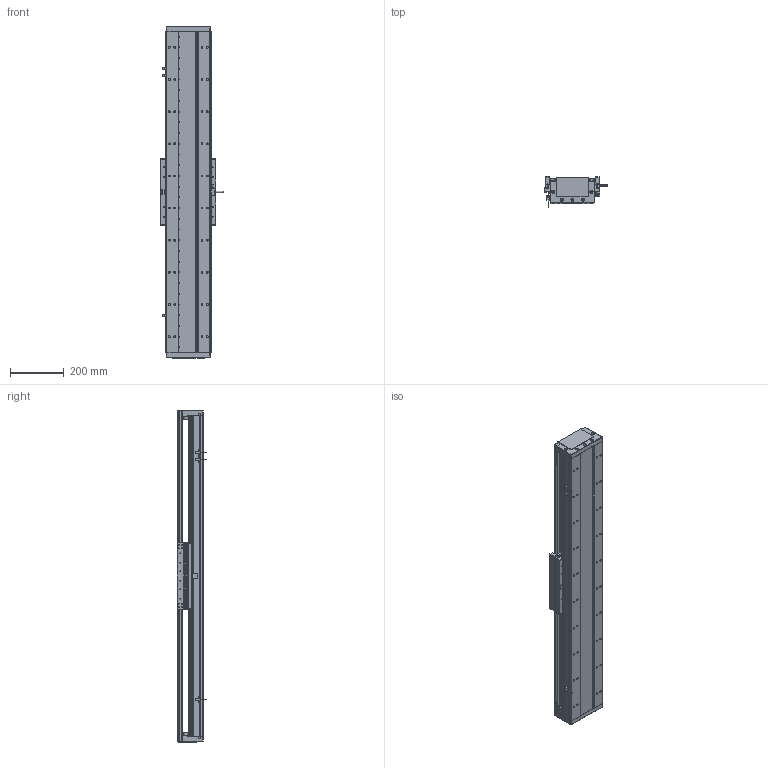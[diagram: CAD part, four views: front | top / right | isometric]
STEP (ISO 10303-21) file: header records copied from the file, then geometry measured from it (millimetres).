
FILE_DESCRIPTION (( 'STEP AP203' ), '1' );
FILE_NAME ('DA-C165-C3-T900-C010-0.2 直线电机.STEP', '2023-06-13T08:42:07', ( '微软用户' ), ( '微软中国' ), 'SwSTEP 2.0', 'SolidWorks 2019', '' );
FILE_SCHEMA (( 'CONFIG_CONTROL_DESIGN' ));
Length unit declared in the file: millimetre
Products named in the file (15): 复件 DA165-GYP-00 光电感应片^DA-C165-C3-T-C010-0.2-N 直线电机; 葩璃 CKM01-W075-TRL^DA-C165-C3-T-C010-0.2-N 眻盄萇儂; 葩璃 DA95-GT-T-00^IU-CU165-L 菁釱絳寢_T; 复件 DA165-T-002-00 盖板^DA-C165-C3-T-C010-0.2-N 直线电机_0840-002-00; 复件 XD-U-02L 磁栅尺^DA-C165-C3-T-C010-0.2-N 直线电机_T; IU-CU165-L 菁釱絳寢; 珨极趙賑雄怢啣C3-wf; 葩璃 PM-T45^DA-C165-C3-T-C010-0.2-N 眻盄萇儂; 复件 六角薄螺母 M3^DA-C165-C3-T-C010-0.2-N 直线电机_GB_FASTENER_NUT_STNAB M3-C; 复件 DA165-DG-H-N-00 端盖^DA-C165-C3-T-C010-0.2-N 直线电机; 复件 DMA-010-0.2 读数头^DA-C165-C3-T-C010-0.2-N 直线电机; 复件 DA95-HXJ-00 缓冲橡胶^DA-C165-C3-T-C010-0.2-N 直线电机; 复件 CU165 底座^IU-CU165-L 底座导轨_L1200; DA-C165-C3-T900-C010-0.2 眻盄萇儂; 葩璃 CKM03-W075-C1C2-TP-3.0^DA-C165-C3-T-C010-0.2-N 眻盄萇儂
Assembly tree (30 placements, depth 3):
  DA-C165-C3-T900-C010-0.2 眻盄萇儂
    IU-CU165-L 菁釱絳寢
      复件 CU165 底座^IU-CU165-L 底座导轨_L1200
      葩璃 DA95-GT-T-00^IU-CU165-L 菁釱絳寢_T  x4
    复件 DA165-DG-H-N-00 端盖^DA-C165-C3-T-C010-0.2-N 直线电机  x2
    复件 DA95-HXJ-00 缓冲橡胶^DA-C165-C3-T-C010-0.2-N 直线电机  x4
    复件 DA165-T-002-00 盖板^DA-C165-C3-T-C010-0.2-N 直线电机_0840-002-00
    复件 XD-U-02L 磁栅尺^DA-C165-C3-T-C010-0.2-N 直线电机_T
    葩璃 PM-T45^DA-C165-C3-T-C010-0.2-N 眻盄萇儂  x3
    葩璃 CKM01-W075-TRL^DA-C165-C3-T-C010-0.2-N 眻盄萇儂
    复件 DA165-GYP-00 光电感应片^DA-C165-C3-T-C010-0.2-N 直线电机
    复件 DMA-010-0.2 读数头^DA-C165-C3-T-C010-0.2-N 直线电机
    葩璃 CKM03-W075-C1C2-TP-3.0^DA-C165-C3-T-C010-0.2-N 眻盄萇儂
    复件 六角薄螺母 M3^DA-C165-C3-T-C010-0.2-N 直线电机_GB_FASTENER_NUT_STNAB M3-C  x8
    珨极趙賑雄怢啣C3-wf
Bounding box: 233 x 111.45 x 1240 mm (x, y, z)
Volume: 9297322 mm3; surface area: 2507608.8 mm2
Topology: 68 solids, 118 shells, 3631 faces, 9788 edges, 6080 vertices
Faces by surface type: cylinder 1842, plane 1179, cone 552, torus 54, sphere 4
Entity records: 108919 total; most frequent: CARTESIAN_POINT 26128, DIRECTION 17166, ORIENTED_EDGE 16630, EDGE_CURVE 8315, AXIS2_PLACEMENT_3D 6514, VERTEX_POINT 5368, LINE 4138, VECTOR 4138
